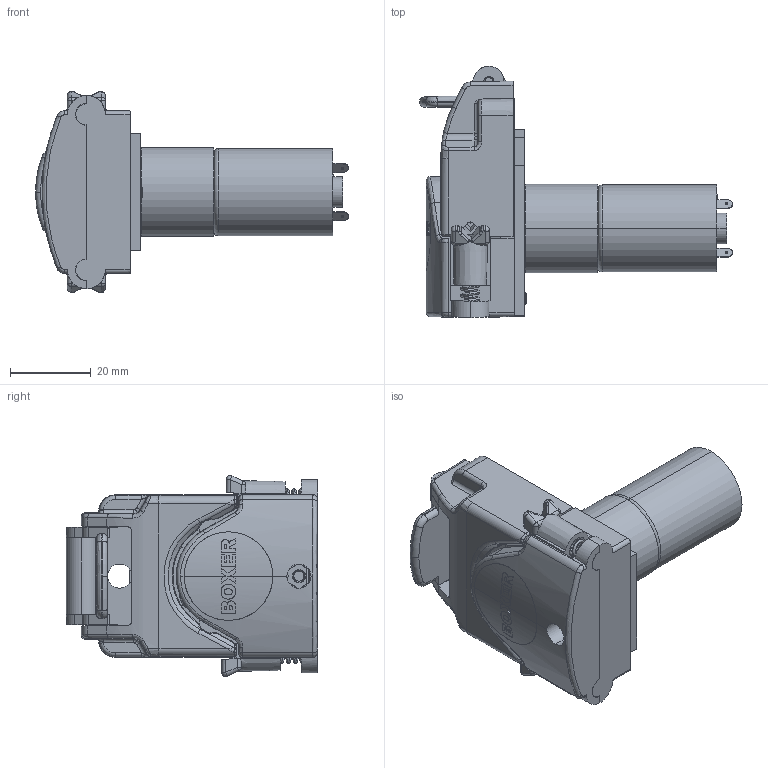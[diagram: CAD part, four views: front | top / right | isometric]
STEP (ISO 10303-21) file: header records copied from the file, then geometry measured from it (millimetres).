
FILE_DESCRIPTION (( 'STEP AP203' ), '1' );
FILE_NAME ('9QX DC.STEP', '2017-08-28T13:51:33', ( '' ), ( '' ), 'SwSTEP 2.0', 'SolidWorks 2015', '' );
FILE_SCHEMA (( 'CONFIG_CONTROL_DESIGN' ));
Length unit declared in the file: millimetre
Products named in the file (1): 9QX DC
Bounding box: 77.72 x 62.38 x 49.89 mm (x, y, z)
Surface area: 21036.5 mm2 (no closed solid volume)
Topology: 0 solids, 17 shells, 748 faces, 2508 edges, 1696 vertices
Faces by surface type: plane 283, cylinder 240, bspline 107, torus 49, cone 42, sphere 27
Entity records: 38066 total; most frequent: CARTESIAN_POINT 17720, ORIENTED_EDGE 4156, DIRECTION 3997, EDGE_CURVE 2467, VERTEX_POINT 1683, AXIS2_PLACEMENT_3D 1386, LINE 1225, VECTOR 1225
